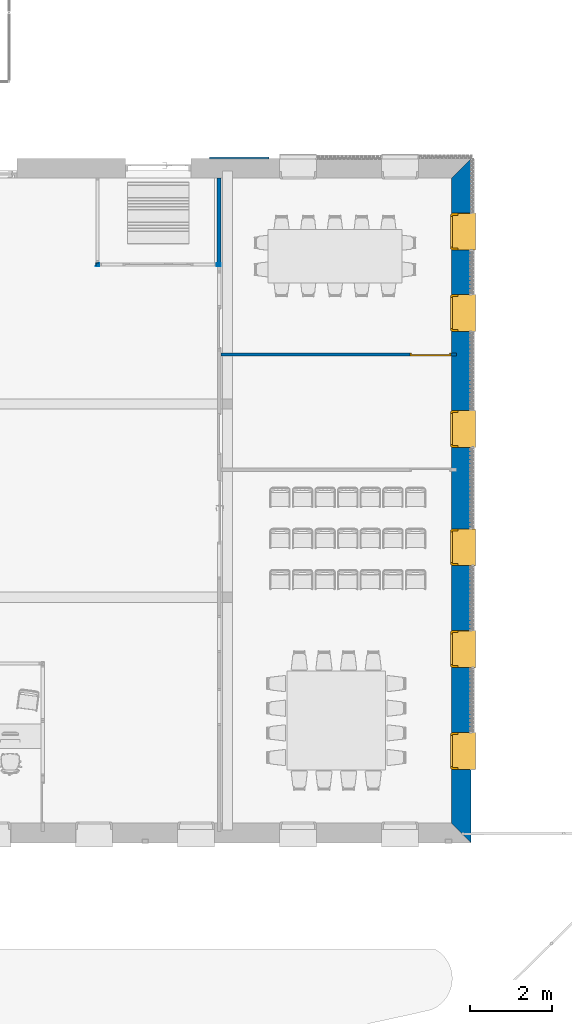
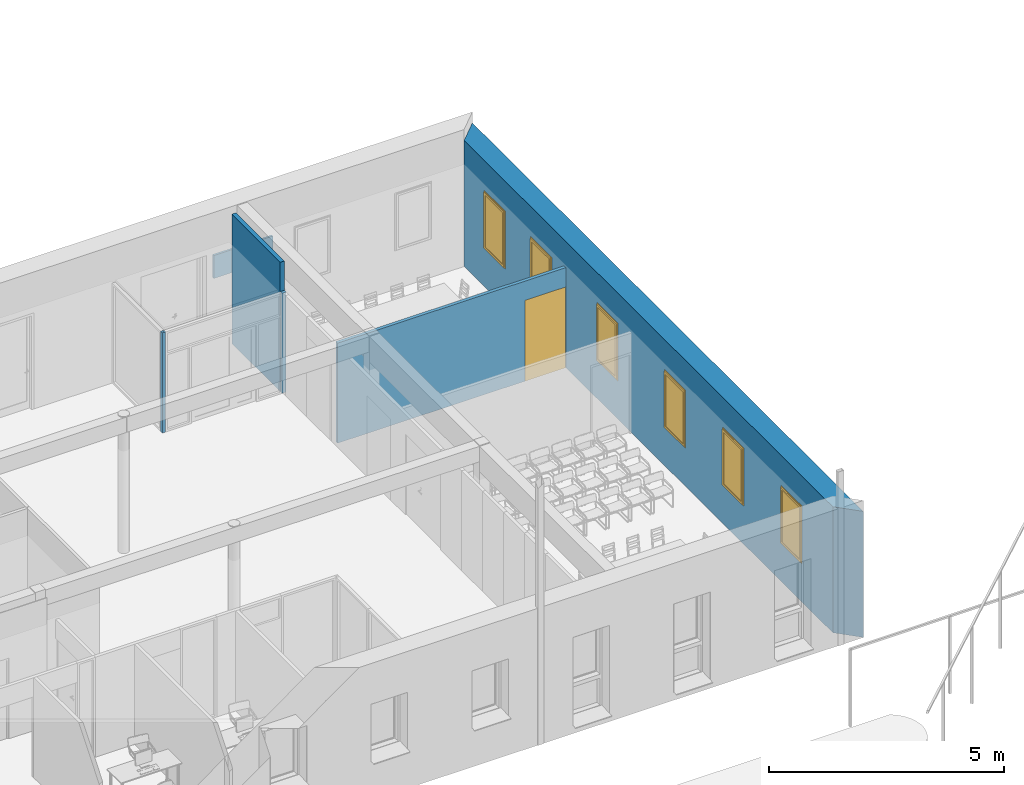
# One storey, part 29 of 91: 6 walls, 6 windows, 1 door, 9 openings.
"""IFC2X3 building model written with IfcOpenShell, lengths in metres."""

from ifc_helpers import new_model, entity, si_unit, converted_unit, derived_unit, money_unit, direction, frame, origin_with_axes, origin_2d_with_axis, place, context, subcontext, project, spatial, polyline, rectangle, outline, extrude, open_shell, faceted_brep, surface_model, source, transform, mapped, material, layer, layer_set, layer_usage, type_object, element, fill, save


model = new_model("IFC2X3")

# Units and contexts
model_context = context("Model", 3, precision=1e-05, world=origin_with_axes(), true_north=direction((0.0, 1.0)))
body_context = subcontext(model_context, "Body", "Model", "MODEL_VIEW")
ifc_project = project(units=[si_unit("LENGTHUNIT", "METRE"), si_unit("AREAUNIT", "SQUARE_METRE"), si_unit("VOLUMEUNIT", "CUBIC_METRE"), converted_unit("PLANEANGLEUNIT", "DEGREE", entity("IfcPlaneAngleMeasure", 0.0174532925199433), si_unit("PLANEANGLEUNIT", "RADIAN"), dimensions=[0, 0, 0, 0, 0, 0, 0]), money_unit("EUR"), converted_unit("TIMEUNIT", "Year", entity("IfcTimeMeasure", 31557600.0), si_unit("TIMEUNIT", "SECOND"), dimensions=[0, 0, 1, 0, 0, 0, 0]), si_unit("MASSUNIT", "GRAM", prefix="KILO"), si_unit("THERMODYNAMICTEMPERATUREUNIT", "DEGREE_CELSIUS"), si_unit("LUMINOUSINTENSITYUNIT", "LUMEN"), si_unit("ENERGYUNIT", "JOULE", prefix="MEGA"), derived_unit("THERMALCONDUCTANCEUNIT", [(si_unit("POWERUNIT", "WATT"), 1), (si_unit("LENGTHUNIT", "METRE"), -1), (si_unit("THERMODYNAMICTEMPERATUREUNIT", "KELVIN"), -1)]), derived_unit("SPECIFICHEATCAPACITYUNIT", [(si_unit("ENERGYUNIT", "JOULE"), 1), (si_unit("MASSUNIT", "GRAM", prefix="KILO"), -1), (si_unit("THERMODYNAMICTEMPERATUREUNIT", "KELVIN"), -1)]), derived_unit("MASSDENSITYUNIT", [(si_unit("MASSUNIT", "GRAM", prefix="KILO"), 1), (si_unit("VOLUMEUNIT", "CUBIC_METRE"), -1)])], contexts=[model_context])

# Site, building, storey
site_placement = place(None, origin_with_axes())
site = spatial("IfcSite", under=ifc_project, at=site_placement, Name="Site", CompositionType="ELEMENT")
building_placement = place(site_placement, origin_with_axes())
building = spatial("IfcBuilding", under=site, at=building_placement, Name="Bâtiment", CompositionType="ELEMENT")
storey_placement = place(building_placement, origin_with_axes())
storey = spatial("IfcBuildingStorey", under=building, at=storey_placement, Name="RDC", CompositionType="ELEMENT", Elevation=0.0)

# Wall
ifc_material_1 = material(Name="*PLAQUE DE PLATRE - CLOISON")
ifc_layer_1 = layer(ifc_material_1, 0.026, ventilated="UNKNOWN")
ifc_material_2 = material(Name="*GENERIQUE - ISOLATION INT")
ifc_layer_2 = layer(ifc_material_2, 0.048, ventilated="UNKNOWN")
ifc_layer_3 = layer(ifc_material_1, 0.026, ventilated="UNKNOWN")
ifc_layer_set_1 = layer_set([ifc_layer_1, ifc_layer_2, ifc_layer_3], Name="*Cloison 98")
ifc_layer_usage_1 = layer_usage(ifc_layer_set_1, "AXIS2", "NEGATIVE", 0.0)
wall_type_1 = type_object("IfcWallType", Name="*Cloison 98 100", PredefinedType="NOTDEFINED")
wall_1_placement = place(storey_placement, frame((54.18699999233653, -11.25756213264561, 0.0), z_axis=(0.0, 0.0, 1.0), x_axis=(0.0, -1.0, 0.0)))
element("IfcWallStandardCase", 1, at=wall_1_placement, inside=storey, type_object=wall_type_1, material=ifc_layer_usage_1, Name="Cloison ép.10 - CF1h", context=body_context, shape_type="SweptSolid", body=[
    extrude(outline(polyline([(0.0, -0.1000000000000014), (2.062999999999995, -0.1000000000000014), (2.062999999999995, 0.0), (0.0, 0.0), (0.0, -0.1000000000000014)])), origin_with_axes(), (0.0, 0.0, 1.0), 3.36),
])

# Wall, opening
ifc_material_3 = material(Name="Finition int - Plaque de plâtre")
ifc_layer_4 = layer(ifc_material_3, 0.013, ventilated="UNKNOWN")
ifc_material_4 = material(Name="Isolation - Laine de verre")
ifc_layer_5 = layer(ifc_material_4, 0.048, ventilated="UNKNOWN")
ifc_layer_6 = layer(ifc_material_3, 0.013, ventilated="UNKNOWN")
ifc_layer_set_2 = layer_set([ifc_layer_4, ifc_layer_5, ifc_layer_6], Name="*Cloison 72")
ifc_layer_usage_2 = layer_usage(ifc_layer_set_2, "AXIS2", "POSITIVE", 0.0)
wall_type_2 = type_object("IfcWallType", Name="*Cloison 72 74", PredefinedType="NOTDEFINED")
wall_2_placement = place(storey_placement, frame((51.14542091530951, -13.40056213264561, 0.0), z_axis=(0.0, 0.0, 1.0), x_axis=(1.0, 0.0, 0.0)))
wall_2 = element("IfcWallStandardCase", 2, at=wall_2_placement, inside=storey, type_object=wall_type_2, material=ifc_layer_usage_2, Name="Cloisons ép. 72mm", context=body_context, shape_type="SweptSolid", body=[
    extrude(outline(polyline([(0.0, 0.0), (3.041579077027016, 0.0), (3.041579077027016, 0.07399999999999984), (0.07399999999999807, 0.07399999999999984), (0.0, 0.0)])), origin_with_axes(), (0.0, 0.0, 1.0), 2.6),
])
opening_1_placement = place(wall_2_placement, frame((1.510789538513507, 0.0, 0.0), z_axis=(0.0, 0.0, 1.0), x_axis=(1.0, 0.0, 0.0)))
element("IfcOpeningElement", 3, at=opening_1_placement, cuts=wall_2, Name="PC.01a", context=body_context, shape_type="SweptSolid", body=[
    extrude(rectangle(XDim=2.861579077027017, YDim=2.6, at=origin_2d_with_axis()), frame((0.0, 0.07399999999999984, 1.3), z_axis=(0.0, -1.0, 0.0), x_axis=(1.0, 0.0, 0.0)), (0.0, 0.0, 1.0), 0.222),
])

ifc_layer_usage_3 = layer_usage(ifc_layer_set_2, "AXIS2", "POSITIVE", 0.0)
wall_3_placement = place(storey_placement, frame((51.14542091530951, -11.25756213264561, 0.0), z_axis=(0.0, 0.0, 1.0), x_axis=(0.0, -1.0, 0.0)))
wall_3 = element("IfcWallStandardCase", 4, at=wall_3_placement, inside=storey, type_object=wall_type_2, material=ifc_layer_usage_3, Name="Cloisons ép. 72mm", context=body_context, shape_type="SweptSolid", body=[
    extrude(outline(polyline([(0.0, 0.0), (2.142999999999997, 0.0), (2.068999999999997, 0.07399999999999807), (0.0, 0.07399999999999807), (0.0, 0.0)])), origin_with_axes(), (0.0, 0.0, 1.0), 2.6),
])
opening_2_placement = place(wall_3_placement, frame((1.031499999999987, 0.0, 0.0), z_axis=(0.0, 0.0, 1.0), x_axis=(1.0, 0.0, 0.0)))
element("IfcOpeningElement", 5, at=opening_2_placement, cuts=wall_3, Name="PC.01b", context=body_context, shape_type="SweptSolid", body=[
    extrude(rectangle(XDim=2.062999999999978, YDim=2.6, at=origin_2d_with_axis()), frame((0.0, 0.07399999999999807, 1.3), z_axis=(0.0, -1.0, 0.0), x_axis=(1.0, 0.0, 0.0)), (0.0, 0.0, 1.0), 0.222),
])

# Wall, opening, door
ifc_layer_7 = layer(ifc_material_1, 0.08, ventilated="UNKNOWN")
ifc_layer_set_3 = layer_set([ifc_layer_7], Name="*PLAQUE DE PLATRE - CLOISON 0.08")
ifc_layer_usage_4 = layer_usage(ifc_layer_set_3, "AXIS2", "POSITIVE", 0.0)
wall_type_3 = type_object("IfcWallType", Name="*PLAQUE DE PLATRE - CLOISON 80", PredefinedType="NOTDEFINED")
wall_4_placement = place(storey_placement, frame((59.9155, -15.51456214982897, 0.0), z_axis=(0.0, 0.0, 1.0), x_axis=(-1.0, 0.0, 0.0)))
wall_4 = element("IfcWallStandardCase", 6, at=wall_4_placement, inside=storey, type_object=wall_type_3, material=ifc_layer_usage_4, Name="Cloison modulaire", context=body_context, shape_type="SweptSolid", body=[
    extrude(outline(polyline([(0.0, 0.0), (5.728500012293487, 0.0), (5.728500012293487, 0.08000000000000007), (0.0, 0.08000000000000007), (0.0, 0.0)])), origin_with_axes(), (0.0, 0.0, 1.0), 2.6),
])
opening_3_placement = place(wall_4_placement, frame((0.6255461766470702, 0.0, 0.0), z_axis=(0.0, 0.0, 1.0), x_axis=(1.0, 0.0, 0.0)))
opening_3 = element("IfcOpeningElement", 7, at=opening_3_placement, cuts=wall_4, Name="Pi.01", context=body_context, shape_type="SweptSolid", body=[
    extrude(rectangle(XDim=1.0, YDim=2.1, at=origin_2d_with_axis()), frame((0.0, -0.08000000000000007, 1.05), z_axis=(0.0, -1.0, 0.0), x_axis=(-1.0, 0.0, 0.0)), (0.0, 0.0, -1.0), 0.24),
])
door_style = type_object("IfcDoorStyle", Name="Porte 27", ConstructionType="NOTDEFINED", OperationType="SINGLE_SWING_LEFT", ParameterTakesPrecedence=False, Sizeable=False)
shared_shape_1 = source(origin_with_axes(), body_context, "Body", "Brep", [
    faceted_brep([(0.465, -0.04, 0.0), (0.465, -0.08, 0.0), (0.465, -0.08, 2.04), (0.465, -0.04, 2.04), (0.495, -0.04, 0.0), (0.495, 0.0, 0.0), (0.5, 0.0, 0.0), (0.5, -0.08, 0.0), (0.5, -0.08, 2.04), (0.495, -0.04, 2.04), (0.5, 0.0, 2.04), (0.495, 0.0, 2.04)], [[[0, 1, 2, 3]], [[4, 5, 6, 7, 1, 0]], [[1, 7, 8, 2]], [[9, 3, 2, 8, 10, 11]], [[9, 4, 0, 3]], [[11, 5, 4, 9]], [[11, 10, 6, 5]], [[6, 10, 8, 7]]]),
    faceted_brep([(-0.495, -0.04, 2.04), (-0.495, 0.0, 2.04), (-0.5, 0.0, 2.04), (-0.5, -0.08, 2.04), (-0.465, -0.08, 2.04), (-0.465, -0.04, 2.04), (-0.495, -0.04, 0.0), (-0.495, 0.0, 0.0), (-0.5, 0.0, 0.0), (-0.5, -0.08, 0.0), (-0.465, -0.08, 0.0), (-0.465, -0.04, 0.0)], [[[0, 1, 2, 3, 4, 5]], [[0, 6, 7, 1]], [[7, 8, 2, 1]], [[2, 8, 9, 3]], [[3, 9, 10, 4]], [[5, 4, 10, 11]], [[5, 11, 6, 0]], [[6, 11, 10, 9, 8, 7]]]),
    faceted_brep([(0.495, 0.0, 2.07), (-0.495, 0.0, 2.07), (-0.495, 0.0, 2.04), (-0.5, 0.0, 2.04), (-0.5, 0.0, 2.1), (0.5, 0.0, 2.1), (0.5, 0.0, 2.04), (0.495, 0.0, 2.04), (0.495, -0.04, 2.07), (-0.495, -0.04, 2.07), (-0.495, -0.04, 2.04), (-0.465, -0.04, 2.04), (-0.465, -0.08, 2.04), (-0.5, -0.08, 2.04), (-0.5, -0.08, 2.1), (0.5, -0.08, 2.1), (0.5, -0.08, 2.04), (0.495, -0.04, 2.04), (0.465, -0.08, 2.04), (0.465, -0.04, 2.04)], [[[0, 1, 2, 3, 4, 5, 6, 7]], [[0, 8, 9, 1]], [[1, 9, 10, 2]], [[10, 11, 12, 13, 3, 2]], [[4, 3, 13, 14]], [[5, 4, 14, 15]], [[6, 5, 15, 16]], [[17, 7, 6, 16, 18, 19]], [[7, 17, 8, 0]], [[10, 9, 8, 17, 19, 11]], [[19, 18, 12, 11]], [[12, 18, 16, 15, 14, 13]]]),
    faceted_brep([(-0.495, 0.0, 0.0), (0.495, 0.0, 0.0), (0.495, -0.04, 0.0), (-0.495, -0.04, 0.0), (-0.495, 0.0, 2.07), (0.495, 0.0, 2.07), (0.495, -0.04000000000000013, 2.07), (-0.495, -0.04000000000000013, 2.07)], [[[0, 1, 2, 3]], [[0, 4, 5, 1]], [[1, 5, 6, 2]], [[3, 2, 6, 7]], [[4, 0, 3, 7]], [[5, 4, 7, 6]]]),
])
door_placement = place(opening_3_placement, frame((-0.5, 0.0, 0.0), z_axis=(0.0, 0.0, 1.0), x_axis=(1.0, 0.0, 0.0)))
door = element("IfcDoor", 8, at=door_placement, inside=storey, type_object=door_style, Name="Pi.01", OverallHeight=2.1, OverallWidth=1.0, context=body_context, shape_type="MappedRepresentation", body=[
    mapped(shared_shape_1, transform((0.5, 0.08000000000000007, 0.0))),
])
fill(opening_3, door)

# Wall, openings, windows
ifc_material_5 = material(Name="*MÉTAL- BARDAGE")
ifc_layer_8 = layer(ifc_material_5, 0.04, ventilated="UNKNOWN")
ifc_material_6 = material(Name="Divers - Vide faux plafond")
ifc_layer_9 = layer(ifc_material_6, 0.05, ventilated="UNKNOWN")
ifc_material_7 = material(Name="Finition int - Enduit plâtre")
ifc_layer_10 = layer(ifc_material_7, 0.01, ventilated="UNKNOWN")
ifc_material_8 = material(Name="*GENERIQUE - MAÇONNERIE")
ifc_layer_11 = layer(ifc_material_8, 0.2, ventilated="UNKNOWN")
ifc_layer_12 = layer(ifc_material_7, 0.01, ventilated="UNKNOWN")
ifc_material_9 = material(Name="Vide pour liteaux")
ifc_layer_13 = layer(ifc_material_9, 0.01, ventilated="UNKNOWN")
ifc_material_10 = material(Name="*GENERIQUE - ISOLATION PLANCHER")
ifc_layer_14 = layer(ifc_material_10, 0.14, ventilated="UNKNOWN")
ifc_material_11 = material(Name="*PLAQUE DE PLATRE - DOUBLAGE")
ifc_layer_15 = layer(ifc_material_11, 0.018, ventilated="UNKNOWN")
ifc_layer_set_4 = layer_set([ifc_layer_8, ifc_layer_9, ifc_layer_10, ifc_layer_11, ifc_layer_12, ifc_layer_13, ifc_layer_14, ifc_layer_15], Name="*MACONNERIE ITI BARDAGE METAL")
ifc_layer_usage_5 = layer_usage(ifc_layer_set_4, "AXIS2", "POSITIVE", -0.478)
wall_type_4 = type_object("IfcWallType", Name="*MACONNERIE ITI BARDAGE METAL 478", PredefinedType="NOTDEFINED")
wall_5_placement = place(storey_placement, frame((59.8, -26.95756215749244, 0.0), z_axis=(0.0, 0.0, 1.0), x_axis=(0.0, 1.0, 0.0)))
wall_5 = element("IfcWallStandardCase", 9, at=wall_5_placement, inside=storey, type_object=wall_type_4, material=ifc_layer_usage_5, Name="Mur maçonné + ITI + véture métallique", context=body_context, shape_type="SweptSolid", body=[
    extrude(outline(polyline([(-0.4780000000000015, -0.4780000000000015), (16.17800002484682, -0.4780000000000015), (15.70000002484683, 0.0), (0.0, 0.0), (-0.4780000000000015, -0.4780000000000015)])), origin_with_axes(), (0.0, 0.0, 1.0), 3.275),
])
opening_4_placement = place(wall_5_placement, frame((1.755339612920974, 0.0, 1.0), z_axis=(0.0, 0.0, 1.0), x_axis=(1.0, 0.0, 0.0)))
opening_4 = element("IfcOpeningElement", 10, at=opening_4_placement, cuts=wall_5, Name="ME.01", context=body_context, shape_type="SweptSolid", body=[
    extrude(rectangle(XDim=0.8999999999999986, YDim=1.5, at=origin_2d_with_axis()), frame((0.0, -0.1580000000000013, 0.75), z_axis=(0.0, -1.0, 0.0), x_axis=(-1.0, 0.0, 0.0)), (0.0, 0.0, 1.0), 0.798),
    extrude(rectangle(XDim=0.8999999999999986, YDim=1.5, at=origin_2d_with_axis()), frame((0.0, -0.1580000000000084, 0.75), z_axis=(0.0, 1.0, 0.0), x_axis=(-1.0, 0.0, 0.0)), (0.0, 0.0, 1.0), 0.6360000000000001),
])
opening_5_placement = place(wall_5_placement, frame((4.235339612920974, 0.0, 1.0), z_axis=(0.0, 0.0, 1.0), x_axis=(1.0, 0.0, 0.0)))
opening_5 = element("IfcOpeningElement", 11, at=opening_5_placement, cuts=wall_5, Name="ME.01", context=body_context, shape_type="SweptSolid", body=[
    extrude(rectangle(XDim=0.8999999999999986, YDim=1.5, at=origin_2d_with_axis()), frame((0.0, -0.1580000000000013, 0.75), z_axis=(0.0, -1.0, 0.0), x_axis=(-1.0, 0.0, 0.0)), (0.0, 0.0, 1.0), 0.798),
    extrude(rectangle(XDim=0.8999999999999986, YDim=1.5, at=origin_2d_with_axis()), frame((0.0, -0.1580000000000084, 0.75), z_axis=(0.0, 1.0, 0.0), x_axis=(-1.0, 0.0, 0.0)), (0.0, 0.0, 1.0), 0.6360000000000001),
])
opening_6_placement = place(wall_5_placement, frame((6.715339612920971, 0.0, 1.0), z_axis=(0.0, 0.0, 1.0), x_axis=(1.0, 0.0, 0.0)))
opening_6 = element("IfcOpeningElement", 12, at=opening_6_placement, cuts=wall_5, Name="ME.01", context=body_context, shape_type="SweptSolid", body=[
    extrude(rectangle(XDim=0.8999999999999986, YDim=1.5, at=origin_2d_with_axis()), frame((0.0, -0.1580000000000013, 0.75), z_axis=(0.0, -1.0, 0.0), x_axis=(-1.0, 0.0, 0.0)), (0.0, 0.0, 1.0), 0.798),
    extrude(rectangle(XDim=0.8999999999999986, YDim=1.5, at=origin_2d_with_axis()), frame((0.0, -0.1580000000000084, 0.75), z_axis=(0.0, 1.0, 0.0), x_axis=(-1.0, 0.0, 0.0)), (0.0, 0.0, 1.0), 0.6360000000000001),
])
opening_7_placement = place(wall_5_placement, frame((14.39300002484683, 0.0, 1.0), z_axis=(0.0, 0.0, 1.0), x_axis=(1.0, 0.0, 0.0)))
opening_7 = element("IfcOpeningElement", 13, at=opening_7_placement, cuts=wall_5, Name="ME.01", context=body_context, shape_type="SweptSolid", body=[
    extrude(rectangle(XDim=0.8999999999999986, YDim=1.5, at=origin_2d_with_axis()), frame((0.0, -0.1580000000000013, 0.75), z_axis=(0.0, -1.0, 0.0), x_axis=(-1.0, 0.0, 0.0)), (0.0, 0.0, 1.0), 0.798),
    extrude(rectangle(XDim=0.8999999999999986, YDim=1.5, at=origin_2d_with_axis()), frame((0.0, -0.1580000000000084, 0.75), z_axis=(0.0, 1.0, 0.0), x_axis=(-1.0, 0.0, 0.0)), (0.0, 0.0, 1.0), 0.6360000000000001),
])
opening_8_placement = place(wall_5_placement, frame((12.41300002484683, 0.0, 1.0), z_axis=(0.0, 0.0, 1.0), x_axis=(1.0, 0.0, 0.0)))
opening_8 = element("IfcOpeningElement", 14, at=opening_8_placement, cuts=wall_5, Name="ME.01", context=body_context, shape_type="SweptSolid", body=[
    extrude(rectangle(XDim=0.8999999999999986, YDim=1.5, at=origin_2d_with_axis()), frame((0.0, -0.1580000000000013, 0.75), z_axis=(0.0, -1.0, 0.0), x_axis=(-1.0, 0.0, 0.0)), (0.0, 0.0, 1.0), 0.798),
    extrude(rectangle(XDim=0.8999999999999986, YDim=1.5, at=origin_2d_with_axis()), frame((0.0, -0.1580000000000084, 0.75), z_axis=(0.0, 1.0, 0.0), x_axis=(-1.0, 0.0, 0.0)), (0.0, 0.0, 1.0), 0.6360000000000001),
])
opening_9_placement = place(wall_5_placement, frame((9.595339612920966, 0.0, 1.0), z_axis=(0.0, 0.0, 1.0), x_axis=(1.0, 0.0, 0.0)))
opening_9 = element("IfcOpeningElement", 15, at=opening_9_placement, cuts=wall_5, Name="ME.01", context=body_context, shape_type="SweptSolid", body=[
    extrude(rectangle(XDim=0.8999999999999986, YDim=1.5, at=origin_2d_with_axis()), frame((0.0, -0.1580000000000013, 0.75), z_axis=(0.0, -1.0, 0.0), x_axis=(-1.0, 0.0, 0.0)), (0.0, 0.0, 1.0), 0.798),
    extrude(rectangle(XDim=0.8999999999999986, YDim=1.5, at=origin_2d_with_axis()), frame((0.0, -0.1580000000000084, 0.75), z_axis=(0.0, 1.0, 0.0), x_axis=(-1.0, 0.0, 0.0)), (0.0, 0.0, 1.0), 0.6360000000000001),
])
window_style = type_object("IfcWindowStyle", Name="Fenêtre 27", ConstructionType="NOTDEFINED", OperationType="SINGLE_PANEL", ParameterTakesPrecedence=False, Sizeable=False)
shared_shape_2 = source(origin_with_axes(), body_context, "Body", "SurfaceModel", [
    surface_model("IfcShellBasedSurfaceModel", [(0.45, -0.161, 0.05), (-0.45, -0.161, 0.05000000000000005), (-0.45, -0.161, 0.04000000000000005), (0.45, -0.161, 0.03999999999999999), (-0.45, -0.5850000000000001, 0.01343749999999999), (0.45, -0.5850000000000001, 0.01343749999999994), (-0.45, -0.5850000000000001, -0.006562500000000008), (0.45, -0.5850000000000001, -0.006562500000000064), (-0.45, -0.5750000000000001, 0.003437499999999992), (0.45, -0.5750000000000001, 0.003437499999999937)], [open_shell([[[0, 1, 2, 3]], [[3, 2, 4, 5]], [[5, 4, 6, 7]], [[7, 6, 8, 9]]])]),
    faceted_brep([(0.447, -0.48, 0.02001547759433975), (0.447, -0.4799999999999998, 1.497), (0.447, -0.1599999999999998, 1.497), (0.447, -0.16, 0.05000000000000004), (0.447, -0.161, 0.05000000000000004), (0.447, -0.161, 0.04000000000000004), (0.45, -0.4799999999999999, 0.02001547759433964), (0.45, -0.4799999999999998, 1.5), (0.45, -0.1599999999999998, 1.5), (0.45, -0.16, 0.05000000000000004), (0.45, -0.161, 0.05000000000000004), (0.45, -0.161, 0.04000000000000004)], [[[0, 1, 2, 3, 4, 5]], [[6, 7, 1, 0]], [[8, 2, 1, 7]], [[3, 2, 8, 9]], [[3, 9, 10, 4]], [[4, 10, 11, 5]], [[5, 11, 6, 0]], [[11, 10, 9, 8, 7, 6]]]),
    faceted_brep([(-0.45, -0.48, 0.02001547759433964), (-0.45, -0.4799999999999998, 1.5), (-0.45, -0.1599999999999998, 1.5), (-0.45, -0.16, 0.05000000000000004), (-0.45, -0.161, 0.05000000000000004), (-0.45, -0.161, 0.04000000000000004), (-0.447, -0.48, 0.02001547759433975), (-0.447, -0.4799999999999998, 1.497), (-0.447, -0.1599999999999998, 1.497), (-0.447, -0.16, 0.05000000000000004), (-0.447, -0.161, 0.05000000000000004), (-0.447, -0.161, 0.04000000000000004)], [[[0, 1, 2, 3, 4, 5]], [[6, 7, 1, 0]], [[8, 2, 1, 7]], [[3, 2, 8, 9]], [[3, 9, 10, 4]], [[4, 10, 11, 5]], [[5, 11, 6, 0]], [[11, 10, 9, 8, 7, 6]]]),
    faceted_brep([(0.45, -0.1599999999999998, 1.5), (0.45, -0.4799999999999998, 1.5), (0.447, -0.4799999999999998, 1.497), (0.447, -0.1599999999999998, 1.497), (-0.45, -0.1599999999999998, 1.5), (-0.45, -0.4799999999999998, 1.5), (-0.447, -0.4799999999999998, 1.497), (-0.447, -0.1599999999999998, 1.497)], [[[0, 1, 2, 3]], [[4, 5, 1, 0]], [[1, 5, 6, 2]], [[3, 2, 6, 7]], [[0, 3, 7, 4]], [[7, 6, 5, 4]]]),
    faceted_brep([(0.425, 0.0, 1.45), (0.425, -0.02500000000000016, 1.45), (0.4, -0.02500000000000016, 1.45), (0.4, -0.1600000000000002, 1.45), (0.45, -0.1600000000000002, 1.45), (0.45, 0.0, 1.45), (0.425, 0.0, 0.05000000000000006), (0.425, -0.02499999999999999, 0.05000000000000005), (0.4, -0.02499999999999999, 0.05000000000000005), (0.4, -0.16, 0.05000000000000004), (0.45, -0.16, 0.05000000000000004), (0.45, 0.0, 0.05000000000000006)], [[[0, 1, 2, 3, 4, 5]], [[1, 0, 6, 7]], [[8, 2, 1, 7]], [[2, 8, 9, 3]], [[4, 3, 9, 10]], [[5, 4, 10, 11]], [[6, 0, 5, 11]], [[7, 6, 11, 10, 9, 8]]]),
    faceted_brep([(-0.4, -0.02500000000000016, 1.45), (-0.425, -0.02500000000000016, 1.45), (-0.425, 0.0, 1.45), (-0.45, 0.0, 1.45), (-0.45, -0.1600000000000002, 1.45), (-0.4, -0.1600000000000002, 1.45), (-0.4, -0.02499999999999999, 0.05000000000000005), (-0.425, -0.02499999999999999, 0.05000000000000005), (-0.425, 0.0, 0.05000000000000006), (-0.45, 0.0, 0.05000000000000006), (-0.45, -0.16, 0.05000000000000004), (-0.4, -0.16, 0.05000000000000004)], [[[0, 1, 2, 3, 4, 5]], [[1, 0, 6, 7]], [[8, 2, 1, 7]], [[2, 8, 9, 3]], [[9, 10, 4, 3]], [[10, 11, 5, 4]], [[6, 0, 5, 11]], [[7, 6, 11, 10, 9, 8]]]),
    faceted_brep([(-0.4, -0.02499999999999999, 0.05000000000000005), (-0.425, -0.02499999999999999, 0.05000000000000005), (-0.425, 0.0, 0.05000000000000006), (-0.45, 0.0, 0.05000000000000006), (-0.45, -0.16, 0.05000000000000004), (-0.4, -0.16, 0.05000000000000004), (0.4, -0.02499999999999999, 0.05000000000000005), (0.425, -0.02499999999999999, 0.05000000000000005), (0.425, -0.02499999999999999, 0.02500000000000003), (-0.425, -0.02499999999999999, 0.02500000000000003), (-0.425, 0.0, 0.02500000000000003), (0.425, 0.0, 0.02500000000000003), (0.425, 0.0, 0.05000000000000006), (0.45, 0.0, 0.05000000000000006), (0.45, 0.0, 0.0), (-0.45, 0.0, 0.0), (-0.45, -0.16, 0.0), (0.45, -0.16, 0.05000000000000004), (0.4, -0.16, 0.05000000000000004), (0.45, -0.16, 0.0)], [[[0, 1, 2, 3, 4, 5]], [[1, 0, 6, 7, 8, 9]], [[10, 2, 1, 9]], [[11, 12, 13, 14, 15, 3, 2, 10]], [[15, 16, 4, 3]], [[17, 18, 5, 4, 16, 19]], [[6, 0, 5, 18]], [[7, 6, 18, 17, 13, 12]], [[7, 12, 11, 8]], [[11, 10, 9, 8]], [[13, 17, 19, 14]], [[14, 19, 16, 15]]]),
    faceted_brep([(0.425, 0.0, 1.45), (0.425, 0.0, 1.475), (-0.425, 0.0, 1.475), (-0.425, 0.0, 1.45), (-0.45, 0.0, 1.45), (-0.45, 0.0, 1.5), (0.45, 0.0, 1.5), (0.45, 0.0, 1.45), (0.425, -0.02500000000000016, 1.45), (0.425, -0.02500000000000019, 1.475), (-0.425, -0.02500000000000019, 1.475), (-0.425, -0.02500000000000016, 1.45), (-0.4, -0.02500000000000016, 1.45), (-0.4, -0.1600000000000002, 1.45), (-0.45, -0.1600000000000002, 1.45), (-0.45, -0.1600000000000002, 1.5), (0.45, -0.1600000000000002, 1.5), (0.45, -0.1600000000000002, 1.45), (0.4, -0.1600000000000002, 1.45), (0.4, -0.02500000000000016, 1.45)], [[[0, 1, 2, 3, 4, 5, 6, 7]], [[1, 0, 8, 9]], [[2, 1, 9, 10]], [[3, 2, 10, 11]], [[11, 12, 13, 14, 4, 3]], [[4, 14, 15, 5]], [[5, 15, 16, 6]], [[6, 16, 17, 7]], [[8, 0, 7, 17, 18, 19]], [[12, 11, 10, 9, 8, 19]], [[12, 19, 18, 13]], [[14, 13, 18, 17, 16, 15]]]),
    faceted_brep([(0.3750000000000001, -0.02500000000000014, 1.425), (0.425, -0.02500000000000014, 1.425), (0.425, 0.02499999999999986, 1.425), (0.3750000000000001, 0.02499999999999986, 1.425), (0.3750000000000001, -0.02499999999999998, 0.07500000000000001), (0.425, -0.02499999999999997, 0.07500000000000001), (0.425, 0.02500000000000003, 0.07500000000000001), (0.3750000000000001, 0.02500000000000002, 0.07500000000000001)], [[[0, 1, 2, 3]], [[0, 4, 5, 1]], [[1, 5, 6, 2]], [[3, 2, 6, 7]], [[4, 0, 3, 7]], [[5, 4, 7, 6]]]),
    faceted_brep([(-0.3750000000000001, -0.02500000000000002, 0.07500000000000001), (-0.425, -0.02500000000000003, 0.07500000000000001), (-0.425, 0.02499999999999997, 0.07500000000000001), (-0.3750000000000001, 0.02499999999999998, 0.07500000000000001), (-0.3750000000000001, -0.02500000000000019, 1.425), (-0.425, -0.02500000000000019, 1.425), (-0.425, 0.02499999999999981, 1.425), (-0.3750000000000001, 0.02499999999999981, 1.425)], [[[0, 1, 2, 3]], [[0, 4, 5, 1]], [[1, 5, 6, 2]], [[3, 2, 6, 7]], [[4, 0, 3, 7]], [[5, 4, 7, 6]]]),
    faceted_brep([(-0.425, -0.02500000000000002, 0.02500000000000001), (-0.425, -0.02500000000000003, 0.07500000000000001), (-0.425, 0.02499999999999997, 0.07500000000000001), (-0.425, 0.02499999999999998, 0.02500000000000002), (0.425, -0.02499999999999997, 0.02500000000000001), (0.425, -0.02499999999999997, 0.07500000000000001), (0.3750000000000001, -0.02499999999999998, 0.07500000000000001), (-0.3750000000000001, -0.02500000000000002, 0.07500000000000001), (-0.3750000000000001, 0.02499999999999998, 0.07500000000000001), (0.3750000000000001, 0.02500000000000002, 0.07500000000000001), (0.425, 0.02500000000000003, 0.07500000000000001), (0.425, 0.02500000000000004, 0.02500000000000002)], [[[0, 1, 2, 3]], [[0, 4, 5, 6, 7, 1]], [[1, 7, 8, 2]], [[3, 2, 8, 9, 10, 11]], [[4, 0, 3, 11]], [[5, 4, 11, 10]], [[6, 5, 10, 9]], [[7, 6, 9, 8]]]),
    faceted_brep([(0.425, -0.02500000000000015, 1.475), (0.425, -0.02500000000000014, 1.425), (0.425, 0.02499999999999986, 1.425), (0.425, 0.02499999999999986, 1.475), (-0.425, -0.0250000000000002, 1.475), (-0.425, -0.02500000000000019, 1.425), (-0.3750000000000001, -0.02500000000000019, 1.425), (0.3750000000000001, -0.02500000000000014, 1.425), (0.3750000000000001, 0.02499999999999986, 1.425), (-0.3750000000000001, 0.02499999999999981, 1.425), (-0.425, 0.02499999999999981, 1.425), (-0.425, 0.0249999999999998, 1.475)], [[[0, 1, 2, 3]], [[0, 4, 5, 6, 7, 1]], [[1, 7, 8, 2]], [[3, 2, 8, 9, 10, 11]], [[4, 0, 3, 11]], [[5, 4, 11, 10]], [[6, 5, 10, 9]], [[7, 6, 9, 8]]]),
    surface_model("IfcShellBasedSurfaceModel", [(0.3750000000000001, -0.01, 0.07500000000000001), (0.3750000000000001, -0.01000000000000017, 1.425), (-0.3750000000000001, -0.01000000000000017, 1.425), (-0.3750000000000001, -0.01, 0.07500000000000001)], [open_shell([[[0, 1, 2, 3]]])]),
    surface_model("IfcShellBasedSurfaceModel", [(0.3750000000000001, 0.01, 0.07500000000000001), (-0.3750000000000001, 0.01, 0.07500000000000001), (-0.3750000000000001, 0.009999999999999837, 1.425), (0.3750000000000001, 0.009999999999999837, 1.425)], [open_shell([[[0, 1, 2, 3]]])]),
])
window_1_placement = place(opening_5_placement, frame((-0.4499999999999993, 0.0, 0.0), z_axis=(0.0, 0.0, 1.0), x_axis=(1.0, 0.0, 0.0)))
window_1 = element("IfcWindow", 16, at=window_1_placement, inside=storey, type_object=window_style, Name="ME.01", OverallHeight=1.5, OverallWidth=0.9, context=body_context, shape_type="MappedRepresentation", body=[
    mapped(shared_shape_2, transform((0.4499999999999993, 0.001999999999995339, 0.0))),
])
fill(opening_5, window_1)
window_2_placement = place(opening_4_placement, frame((-0.4499999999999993, 0.0, 0.0), z_axis=(0.0, 0.0, 1.0), x_axis=(1.0, 0.0, 0.0)))
window_2 = element("IfcWindow", 17, at=window_2_placement, inside=storey, type_object=window_style, Name="ME.01", OverallHeight=1.5, OverallWidth=0.9, context=body_context, shape_type="MappedRepresentation", body=[
    mapped(shared_shape_2, transform((0.4499999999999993, 0.001999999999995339, 0.0))),
])
fill(opening_4, window_2)
window_3_placement = place(opening_6_placement, frame((-0.4499999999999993, 0.0, 0.0), z_axis=(0.0, 0.0, 1.0), x_axis=(1.0, 0.0, 0.0)))
window_3 = element("IfcWindow", 18, at=window_3_placement, inside=storey, type_object=window_style, Name="ME.01", OverallHeight=1.5, OverallWidth=0.9, context=body_context, shape_type="MappedRepresentation", body=[
    mapped(shared_shape_2, transform((0.4499999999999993, 0.001999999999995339, 0.0))),
])
fill(opening_6, window_3)
window_4_placement = place(opening_7_placement, frame((-0.4499999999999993, 0.0, 0.0), z_axis=(0.0, 0.0, 1.0), x_axis=(1.0, 0.0, 0.0)))
window_4 = element("IfcWindow", 19, at=window_4_placement, inside=storey, type_object=window_style, Name="ME.01", OverallHeight=1.5, OverallWidth=0.9, context=body_context, shape_type="MappedRepresentation", body=[
    mapped(shared_shape_2, transform((0.4499999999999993, 0.001999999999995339, 0.0))),
])
fill(opening_7, window_4)
window_5_placement = place(opening_8_placement, frame((-0.4499999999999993, 0.0, 0.0), z_axis=(0.0, 0.0, 1.0), x_axis=(1.0, 0.0, 0.0)))
window_5 = element("IfcWindow", 20, at=window_5_placement, inside=storey, type_object=window_style, Name="ME.01", OverallHeight=1.5, OverallWidth=0.9, context=body_context, shape_type="MappedRepresentation", body=[
    mapped(shared_shape_2, transform((0.4499999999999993, 0.001999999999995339, 0.0))),
])
fill(opening_8, window_5)
window_6_placement = place(opening_9_placement, frame((-0.4499999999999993, 0.0, 0.0), z_axis=(0.0, 0.0, 1.0), x_axis=(1.0, 0.0, 0.0)))
window_6 = element("IfcWindow", 21, at=window_6_placement, inside=storey, type_object=window_style, Name="ME.01", OverallHeight=1.5, OverallWidth=0.9, context=body_context, shape_type="MappedRepresentation", body=[
    mapped(shared_shape_2, transform((0.4499999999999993, 0.001999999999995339, 0.0))),
])
fill(opening_9, window_6)

# Wall
ifc_material_12 = material(Name="MANQUANT")
ifc_layer_16 = layer(ifc_material_12, 0.05, ventilated="UNKNOWN")
ifc_layer_set_5 = layer_set([ifc_layer_16], Name="MANQUANT 0.05")
ifc_layer_usage_6 = layer_usage(ifc_layer_set_5, "AXIS2", "POSITIVE", -0.05)
wall_type_5 = type_object("IfcWallType", Name="MANQUANT 50", PredefinedType="NOTDEFINED")
wall_6_placement = place(storey_placement, frame((55.36106363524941, -10.79956213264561, 1.467323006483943), z_axis=(0.0, 0.0, 1.0), x_axis=(-1.0, 0.0, 0.0)))
element("IfcWallStandardCase", 22, at=wall_6_placement, inside=storey, type_object=wall_type_5, material=ifc_layer_usage_6, Name="MUR 01", context=body_context, shape_type="SweptSolid", body=[
    extrude(outline(polyline([(0.0, -0.05000000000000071), (1.450309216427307, -0.05000000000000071), (1.450309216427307, 0.0), (0.0, 0.0), (0.0, -0.05000000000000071)])), origin_with_axes(), (0.0, 0.0, 1.0), 0.5999999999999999),
])

save(model, "model.ifc")
